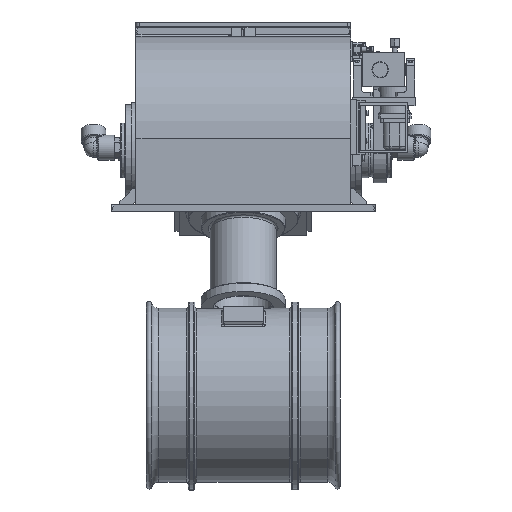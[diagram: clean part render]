
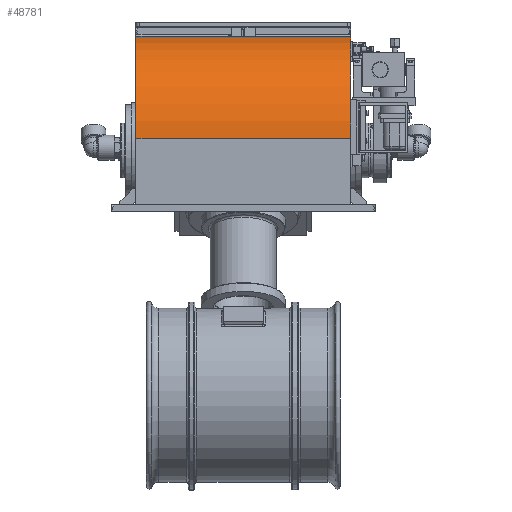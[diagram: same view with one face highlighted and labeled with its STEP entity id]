
A CAD part, front view. The second image highlights one B-rep face of the part: STEP entity #48781.
In plain terms, the highlighted cylindrical face has radius 317 mm (diameter 634 mm), a partial arc.
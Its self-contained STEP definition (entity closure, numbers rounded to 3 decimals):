
#3700=LINE('',#78463,#7886);
#3701=LINE('',#78467,#7887);
#7886=VECTOR('',#62159,10.);
#7887=VECTOR('',#62162,10.);
#12568=FACE_OUTER_BOUND('',#15485,.T.);
#15485=EDGE_LOOP('',(#38175,#38176,#38177,#38178));
#18046=CIRCLE('',#52651,317.);
#18047=CIRCLE('',#52652,317.);
#21954=VERTEX_POINT('',#78461);
#21955=VERTEX_POINT('',#78462);
#21956=VERTEX_POINT('',#78464);
#21957=VERTEX_POINT('',#78466);
#27690=EDGE_CURVE('',#21954,#21955,#3700,.T.);
#27691=EDGE_CURVE('',#21956,#21954,#18046,.T.);
#27692=EDGE_CURVE('',#21956,#21957,#3701,.T.);
#27693=EDGE_CURVE('',#21955,#21957,#18047,.T.);
#38175=ORIENTED_EDGE('',*,*,#27690,.F.);
#38176=ORIENTED_EDGE('',*,*,#27691,.F.);
#38177=ORIENTED_EDGE('',*,*,#27692,.T.);
#38178=ORIENTED_EDGE('',*,*,#27693,.F.);
#44525=CYLINDRICAL_SURFACE('',#52650,317.);
#48781=ADVANCED_FACE('',(#12568),#44525,.T.);
#52650=AXIS2_PLACEMENT_3D('',#78460,#62157,#62158);
#52651=AXIS2_PLACEMENT_3D('',#78465,#62160,#62161);
#52652=AXIS2_PLACEMENT_3D('',#78468,#62163,#62164);
#62157=DIRECTION('center_axis',(-1.,0.,0.));
#62158=DIRECTION('ref_axis',(0.,-1.,0.));
#62159=DIRECTION('',(1.,0.,0.));
#62160=DIRECTION('center_axis',(-1.,0.,0.));
#62161=DIRECTION('ref_axis',(0.,-1.,0.));
#62162=DIRECTION('',(1.,0.,0.));
#62163=DIRECTION('center_axis',(1.,0.,0.));
#62164=DIRECTION('ref_axis',(0.,0.,
1.));
#78460=CARTESIAN_POINT('Origin',(311.581,-175.37,226.5));
#78461=CARTESIAN_POINT('',(-20.919,-175.37,543.5));
#78462=CARTESIAN_POINT('',(644.081,-175.37,543.5));
#78463=CARTESIAN_POINT('',(311.581,-175.37,543.5));
#78464=CARTESIAN_POINT('',(-20.919,-492.37,226.5));
#78465=CARTESIAN_POINT('Origin',(-20.919,-175.37,226.5));
#78466=CARTESIAN_POINT('',(644.081,-492.37,226.5));
#78467=CARTESIAN_POINT('',(311.581,-492.37,226.5));
#78468=CARTESIAN_POINT('Origin',(644.081,-175.37,226.5));
